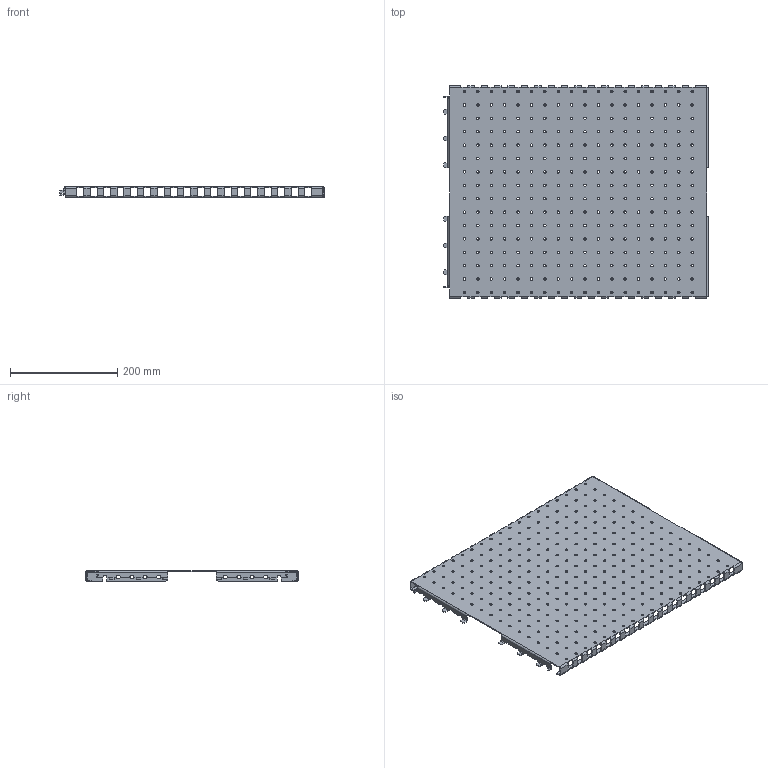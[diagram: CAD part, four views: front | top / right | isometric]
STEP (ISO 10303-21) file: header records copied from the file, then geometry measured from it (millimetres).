
FILE_DESCRIPTION(('STEP AP203'), '1');
FILE_NAME('Îãðàæäåíèå ñáîðíîé øèíû áîêîâîå ìîíòàæíîå 400õ600 ìì OptiBox M 419293 ÊÝÀÇ', '', ('UNSPECIFIED'), ('UNSPECIFIED'), 'C3D Converter', 'C3D Toolkit', '');
FILE_SCHEMA(('CONFIG_CONTROL_DESIGN'));
Length unit declared in the file: millimetre
Bounding box: 494.3 x 397 x 20 mm (x, y, z)
Volume: 416266.5 mm3; surface area: 434236.2 mm2
Topology: 1 solids, 1 shells, 844 faces, 2346 edges, 1432 vertices
Faces by surface type: cylinder 486, plane 358
Full cylindrical faces by diameter (mm): 4.6 x288, 7.3 x8
Entity records: 26762 total; most frequent: DIRECTION 4712, CARTESIAN_POINT 4327, ORIENTED_EDGE 4100, EDGE_CURVE 2050, AXIS2_PLACEMENT_3D 1817, EDGE_LOOP 1732, VERTEX_POINT 1432, FACE_BOUND 1140
